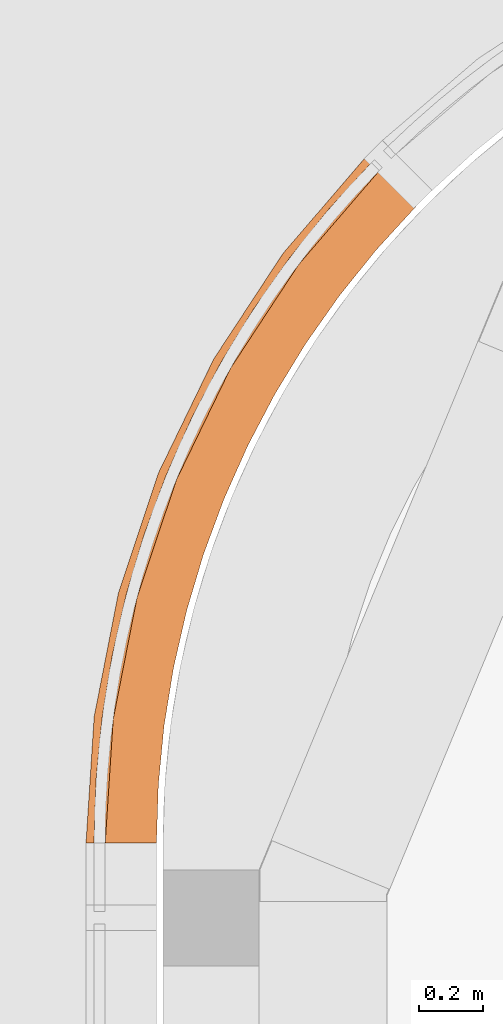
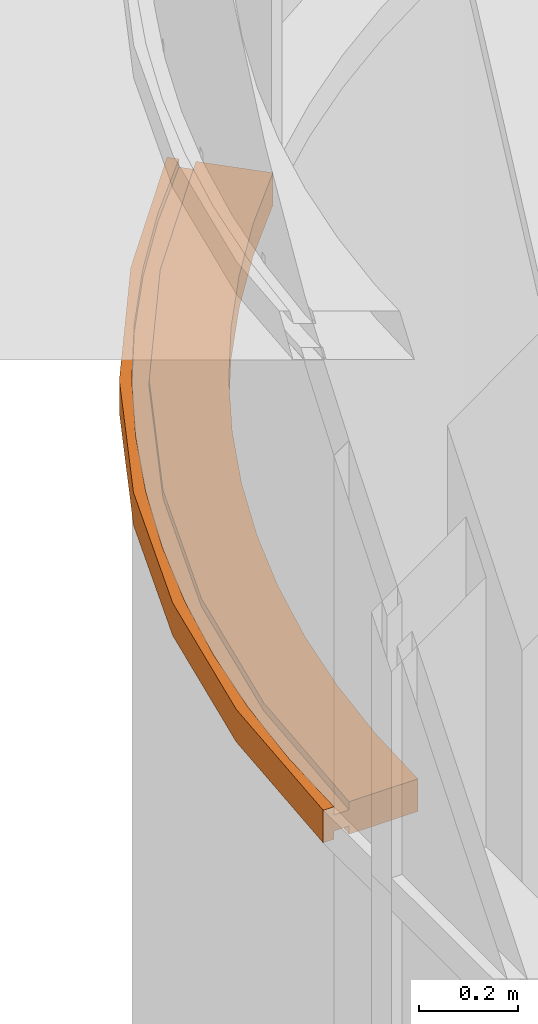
# One storey, part 292 of 302: 1 proxy.
"""IFC2X3 building model written with IfcOpenShell, lengths in metres."""

from ifc_helpers import new_model, entity, si_unit, converted_unit, derived_unit, direction, frame, origin, place, context, subcontext, project, spatial, faceted_brep, source, transform, mapped, material, type_object, type_shapes, element, save


model = new_model("IFC2X3")

# Units and contexts
model_context = context("Model", 3, precision=1e-05, world=origin(), true_north=direction((6.12303176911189e-17, 1.0)))
body_context = subcontext(model_context, "Body", "Model", "MODEL_VIEW")
ifc_project = project(units=[si_unit("LENGTHUNIT", "METRE"), si_unit("AREAUNIT", "SQUARE_METRE"), si_unit("VOLUMEUNIT", "CUBIC_METRE"), converted_unit("PLANEANGLEUNIT", "DEGREE", entity("IfcRatioMeasure", 0.0174532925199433), si_unit("PLANEANGLEUNIT", "RADIAN"), dimensions=[0, 0, 0, 0, 0, 0, 0]), si_unit("MASSUNIT", "GRAM", prefix="KILO"), derived_unit("MASSDENSITYUNIT", [(si_unit("MASSUNIT", "GRAM", prefix="KILO"), 1), (si_unit("LENGTHUNIT", "METRE"), -3)]), derived_unit("MOMENTOFINERTIAUNIT", [(si_unit("LENGTHUNIT", "METRE"), 4)]), si_unit("TIMEUNIT", "SECOND"), si_unit("FREQUENCYUNIT", "HERTZ"), si_unit("THERMODYNAMICTEMPERATUREUNIT", "DEGREE_CELSIUS"), derived_unit("THERMALTRANSMITTANCEUNIT", [(si_unit("MASSUNIT", "GRAM", prefix="KILO"), 1), (si_unit("THERMODYNAMICTEMPERATUREUNIT", "KELVIN"), -1), (si_unit("TIMEUNIT", "SECOND"), -3)]), derived_unit("VOLUMETRICFLOWRATEUNIT", [(si_unit("LENGTHUNIT", "METRE"), 3), (si_unit("TIMEUNIT", "SECOND"), -1)]), si_unit("ELECTRICCURRENTUNIT", "AMPERE"), si_unit("ELECTRICVOLTAGEUNIT", "VOLT"), si_unit("POWERUNIT", "WATT"), si_unit("FORCEUNIT", "NEWTON", prefix="KILO"), si_unit("ILLUMINANCEUNIT", "LUX"), si_unit("LUMINOUSFLUXUNIT", "LUMEN"), si_unit("LUMINOUSINTENSITYUNIT", "CANDELA"), derived_unit("USERDEFINED", [(si_unit("MASSUNIT", "GRAM", prefix="KILO"), -1), (si_unit("LENGTHUNIT", "METRE"), -2), (si_unit("TIMEUNIT", "SECOND"), 3), (si_unit("LUMINOUSFLUXUNIT", "LUMEN"), 1)]), derived_unit("LINEARVELOCITYUNIT", [(si_unit("LENGTHUNIT", "METRE"), 1), (si_unit("TIMEUNIT", "SECOND"), -1)]), si_unit("PRESSUREUNIT", "PASCAL"), derived_unit("USERDEFINED", [(si_unit("LENGTHUNIT", "METRE"), -2), (si_unit("MASSUNIT", "GRAM", prefix="KILO"), 1), (si_unit("TIMEUNIT", "SECOND"), -2)]), derived_unit("LINEARFORCEUNIT", [(si_unit("MASSUNIT", "GRAM", prefix="KILO"), 1), (si_unit("LENGTHUNIT", "METRE"), 1), (si_unit("TIMEUNIT", "SECOND"), -2), (si_unit("LENGTHUNIT", "METRE"), -1)]), derived_unit("PLANARFORCEUNIT", [(si_unit("MASSUNIT", "GRAM", prefix="KILO"), 1), (si_unit("LENGTHUNIT", "METRE"), 1), (si_unit("TIMEUNIT", "SECOND"), -2), (si_unit("LENGTHUNIT", "METRE"), -2)])], contexts=[model_context])

# Site, building, storey
site_placement = place(None, origin())
site = spatial("IfcSite", under=ifc_project, at=site_placement, Name="Default", CompositionType="ELEMENT")
building_placement = place(site_placement, origin())
building = spatial("IfcBuilding", under=site, at=building_placement, CompositionType="ELEMENT")
storey_placement = place(building_placement, frame((0.0, 0.0, -1.3)))
storey = spatial("IfcBuildingStorey", under=building, at=storey_placement, Name="00_EG", CompositionType="ELEMENT", Elevation=-1.3)

# Proxy
ifc_material = material(Name="Prepainted_Steel-ArcelorMittal_Construction_HAIRULTRA-35-CORAL-4309-[RAL_3000]")
building_element_proxy_type = type_object("IfcBuildingElementProxyType", Name="Fassadenrahmen Typ2:Fassadenrahmen Typ1", PredefinedType="NOTDEFINED", material=ifc_material)
shared_shape = source(origin(), body_context, "Body", "Brep", [
    faceted_brep([(0.892326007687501, 2.12421060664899, 0.0800000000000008), (0.892326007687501, 2.12421060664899, 0.060000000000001), (0.917342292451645, 2.09973234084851, 0.0600000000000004), (0.917342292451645, 2.09973234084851, 0.0800000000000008), (1.03170245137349, 1.98783169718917, 0.0800000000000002), (1.03170245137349, 1.98783169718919, 0.0), (0.917342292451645, 2.09973234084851, 0.0), (0.917342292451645, 2.09973234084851, 0.0200000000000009), (0.892326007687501, 2.12421060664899, 0.0200000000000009), (0.892326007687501, 2.12421060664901, 0.0), (0.874457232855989, 2.14169508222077, 0.0), (0.874457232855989, 2.14169508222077, 0.0800000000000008), (0.00159527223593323, 0.0015952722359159, 0.0800000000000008), (0.00159527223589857, 0.0015952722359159, 0.0), (0.0265952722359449, 0.0015952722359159, 0.0), (0.0265952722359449, 0.0015952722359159, 0.0200000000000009), (0.0615952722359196, 0.0015952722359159, 0.0200000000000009), (0.0615952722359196, 0.0015952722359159, 0.0), (0.221595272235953, 0.0015952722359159, 0.0), (0.221595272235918, 0.0015952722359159, 0.0800000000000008), (0.0615952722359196, 0.0015952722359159, 0.0800000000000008), (0.0615952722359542, 0.0015952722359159, 0.060000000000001), (0.0265952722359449, 0.0015952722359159, 0.0600000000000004), (0.0265952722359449, 0.0015952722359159, 0.0800000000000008), (0.16102349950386, 0.767547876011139, 0.0), (0.191707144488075, 0.859302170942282, 0.0), (0.222390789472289, 0.951056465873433, 0.0), (0.253074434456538, 1.04281076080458, 0.0), (0.283758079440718, 1.13456505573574, 0.0), (0.325997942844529, 1.22160602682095, 0.0), (0.36823780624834, 1.30864699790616, 0.0), (0.410477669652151, 1.39568796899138, 0.0), (0.452717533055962, 1.4827289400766, 0.0), (0.505810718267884, 1.56360817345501, 0.0), (0.558903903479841, 1.64448740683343, 0.0), (0.611997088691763, 1.72536664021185, 0.0), (0.665090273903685, 1.80624587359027, 0.0), (0.72815327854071, 1.87961749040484, 0.0), (0.7912162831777, 1.9529891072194, 0.0), (0.839483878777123, 2.00914677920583, 0.0), (0.907818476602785, 1.85276936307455, 0.0), (0.792903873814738, 1.70999784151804, 0.0), (0.687437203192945, 1.56011170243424, 0.0), (0.591857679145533, 1.40373514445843, 0.0), (0.506563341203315, 1.24151939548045, 0.0), (0.431909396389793, 1.07414000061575, 0.0), (0.368206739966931, 0.902294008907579, 0.0), (0.315720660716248, 0.726697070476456, 0.0), (0.274669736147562, 0.548080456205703, 0.0), (0.245224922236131, 0.367188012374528, 0.0), (0.227508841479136, 0.184773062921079, 0.0), (0.0692995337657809, 0.120793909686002, 0.0), (0.0740757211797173, 0.194690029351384, 0.0), (0.0803159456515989, 0.291237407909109, 0.0), (0.0865561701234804, 0.387784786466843, 0.0), (0.105173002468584, 0.482725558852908, 0.0), (0.123789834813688, 0.577666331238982, 0.0), (0.142406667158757, 0.672607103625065, 0.0), (0.103012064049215, 0.78286692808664, 0.0), (0.228201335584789, 1.15722445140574, 0.0), (0.400539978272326, 1.51235161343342, 0.0), (0.617160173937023, 1.84233888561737, 0.0), (0.826130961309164, 2.05204261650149, 0.0), (0.759935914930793, 1.97987462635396, 0.0), (0.698533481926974, 1.90358737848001, 0.0), (0.637131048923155, 1.82730013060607, 0.0), (0.580776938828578, 1.74721132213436, 0.0), (0.524422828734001, 1.66712251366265, 0.0), (0.473351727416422, 1.58356567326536, 0.0), (0.422280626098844, 1.50000883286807, 0.0), (0.376705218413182, 1.41333193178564, 0.0), (0.331129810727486, 1.32665503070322, 0.0), (0.291239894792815, 1.23721903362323, 0.0), (0.25134997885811, 1.14778303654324, 0.0), (0.217311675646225, 1.05596039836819, 0.0), (0.183273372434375, 0.964137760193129, 0.0), (0.155228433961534, 0.870310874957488, 0.0), (0.127183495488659, 0.776483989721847, 0.0), (0.105248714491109, 0.681043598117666, 0.0), (0.0833139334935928, 0.585603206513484, 0.0), (0.0675806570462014, 0.488946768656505, 0.0), (0.0518473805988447, 0.392290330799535, 0.0), (0.0423811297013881, 0.294820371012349, 0.0), (0.0329148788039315, 0.197350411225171, 0.0), (0.0304738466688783, 0.121737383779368, 0.0), (0.0270553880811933, 0.395508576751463, 0.0), (0.452717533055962, 1.48272894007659, 0.0200000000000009), (0.505810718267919, 1.56360817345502, 0.0200000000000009), (0.558903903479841, 1.64448740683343, 0.0200000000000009), (0.611997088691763, 1.72536664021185, 0.0200000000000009), (0.665090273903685, 1.80624587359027, 0.0200000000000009), (0.665090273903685, 1.80624587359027, 0.0800000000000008), (0.665090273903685, 1.80624587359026, 0.060000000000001), (0.611997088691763, 1.72536664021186, 0.0600000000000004), (0.558903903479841, 1.64448740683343, 0.0600000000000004), (0.505810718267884, 1.56360817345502, 0.0600000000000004), (0.452717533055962, 1.48272894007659, 0.060000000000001), (0.452717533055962, 1.48272894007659, 0.0800000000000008), (0.505810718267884, 1.56360817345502, 0.0800000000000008), (0.558903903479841, 1.64448740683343, 0.0800000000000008), (0.611997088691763, 1.72536664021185, 0.0800000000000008), (0.728153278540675, 1.87961749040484, 0.0200000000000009), (0.791216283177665, 1.95298910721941, 0.0200000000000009), (0.85427928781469, 2.02636072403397, 0.0200000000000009), (0.713357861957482, 1.86240353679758, 0.0600000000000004), (0.728153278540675, 1.87961749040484, 0.0800000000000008), (0.791216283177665, 1.95298910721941, 0.0800000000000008), (0.839483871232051, 2.0091467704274, 0.0800000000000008), (0.839483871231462, 2.00914677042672, 0.0600000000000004), (0.761625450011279, 1.91856120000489, 0.0600000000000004), (0.410477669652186, 1.39568796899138, 0.0200000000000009), (0.283758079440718, 1.13456505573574, 0.0200000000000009), (0.325997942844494, 1.22160602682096, 0.0200000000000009), (0.36823780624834, 1.30864699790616, 0.0200000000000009), (0.410477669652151, 1.39568796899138, 0.0600000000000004), (0.368237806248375, 1.30864699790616, 0.0600000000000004), (0.325997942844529, 1.22160602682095, 0.0600000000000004), (0.283758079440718, 1.13456505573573, 0.060000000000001), (0.283758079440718, 1.13456505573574, 0.0800000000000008), (0.325997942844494, 1.22160602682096, 0.0800000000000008), (0.36823780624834, 1.30864699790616, 0.0800000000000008), (0.410477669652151, 1.39568796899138, 0.0800000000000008), (0.0865561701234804, 0.387784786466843, 0.0200000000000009), (0.105173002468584, 0.482725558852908, 0.0200000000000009), (0.123789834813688, 0.577666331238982, 0.0200000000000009), (0.142406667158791, 0.672607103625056, 0.0200000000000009), (0.16102349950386, 0.76754787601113, 0.0200000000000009), (0.123789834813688, 0.577666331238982, 0.0600000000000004), (0.105173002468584, 0.482725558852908, 0.0600000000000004), (0.0865561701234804, 0.387784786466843, 0.060000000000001), (0.0865561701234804, 0.387784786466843, 0.0800000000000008), (0.105173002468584, 0.482725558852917, 0.0800000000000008), (0.123789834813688, 0.577666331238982, 0.0800000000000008), (0.142406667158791, 0.672607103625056, 0.0800000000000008), (0.161023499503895, 0.76754787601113, 0.0800000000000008), (0.161023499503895, 0.76754787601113, 0.060000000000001), (0.142406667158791, 0.672607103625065, 0.0600000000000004), (0.0740757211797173, 0.194690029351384, 0.0200000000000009), (0.0803159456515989, 0.291237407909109, 0.0200000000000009), (0.0678354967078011, 0.0981426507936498, 0.0200000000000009), (0.069299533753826, 0.120793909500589, 0.0800000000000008), (0.0740757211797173, 0.194690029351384, 0.0800000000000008), (0.0803159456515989, 0.291237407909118, 0.0800000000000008), (0.0803159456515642, 0.291237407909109, 0.0600000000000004), (0.0740757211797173, 0.194690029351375, 0.0600000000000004), (0.0678354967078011, 0.0981426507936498, 0.0600000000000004), (0.191707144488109, 0.859302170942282, 0.0200000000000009), (0.222390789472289, 0.951056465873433, 0.0200000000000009), (0.253074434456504, 1.04281076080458, 0.0200000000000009), (0.253074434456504, 1.04281076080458, 0.0800000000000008), (0.253074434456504, 1.04281076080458, 0.0600000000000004), (0.222390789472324, 0.951056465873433, 0.0600000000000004), (0.191707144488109, 0.859302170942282, 0.0600000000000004), (0.191707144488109, 0.859302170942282, 0.0800000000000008), (0.222390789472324, 0.951056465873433, 0.0800000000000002), (0.0297550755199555, 0.0994728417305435, 0.0200000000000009), (0.0329148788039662, 0.197350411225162, 0.0200000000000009), (0.0423811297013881, 0.294820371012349, 0.0200000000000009), (0.0518473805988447, 0.392290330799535, 0.0200000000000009), (0.0675806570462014, 0.488946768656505, 0.0200000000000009), (0.0833139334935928, 0.585603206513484, 0.0200000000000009), (0.105248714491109, 0.681043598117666, 0.0200000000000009), (0.127183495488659, 0.776483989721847, 0.0200000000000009), (0.155228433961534, 0.870310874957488, 0.0200000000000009), (0.183273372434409, 0.964137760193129, 0.0200000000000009), (0.217311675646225, 1.05596039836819, 0.0200000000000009), (0.25134997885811, 1.14778303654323, 0.0200000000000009), (0.291239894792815, 1.23721903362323, 0.0200000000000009), (0.331129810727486, 1.32665503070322, 0.0200000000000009), (0.376705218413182, 1.41333193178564, 0.0200000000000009), (0.422280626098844, 1.50000883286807, 0.0200000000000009), (0.473351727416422, 1.58356567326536, 0.0200000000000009), (0.524422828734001, 1.66712251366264, 0.0200000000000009), (0.580776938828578, 1.74721132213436, 0.0200000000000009), (0.637131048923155, 1.82730013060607, 0.0200000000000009), (0.698533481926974, 1.90358737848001, 0.0200000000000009), (0.759935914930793, 1.97987462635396, 0.0200000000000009), (0.826130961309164, 2.05204261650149, 0.0200000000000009), (0.524422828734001, 1.66712251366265, 0.0800000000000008), (0.473351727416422, 1.58356567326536, 0.0800000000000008), (0.422280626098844, 1.50000883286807, 0.0800000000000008), (0.422280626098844, 1.50000883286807, 0.0600000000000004), (0.473351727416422, 1.58356567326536, 0.0600000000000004), (0.524422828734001, 1.66712251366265, 0.0600000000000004), (0.376705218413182, 1.41333193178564, 0.0800000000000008), (0.331129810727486, 1.32665503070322, 0.0800000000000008), (0.331129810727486, 1.32665503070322, 0.0600000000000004), (0.376705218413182, 1.41333193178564, 0.0600000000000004), (0.698533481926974, 1.90358737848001, 0.0800000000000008), (0.637131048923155, 1.82730013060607, 0.0800000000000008), (0.637131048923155, 1.82730013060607, 0.0600000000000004), (0.698533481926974, 1.90358737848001, 0.0600000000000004), (0.759935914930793, 1.97987462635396, 0.0600000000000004), (0.759935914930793, 1.97987462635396, 0.0800000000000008), (0.826130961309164, 2.05204261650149, 0.0800000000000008), (0.826130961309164, 2.05204261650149, 0.0600000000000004), (0.580776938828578, 1.74721132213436, 0.0800000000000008), (0.580776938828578, 1.74721132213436, 0.0600000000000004), (0.291239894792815, 1.23721903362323, 0.0800000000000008), (0.25134997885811, 1.14778303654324, 0.0800000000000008), (0.25134997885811, 1.14778303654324, 0.0600000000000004), (0.291239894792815, 1.23721903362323, 0.0600000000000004), (0.155228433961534, 0.870310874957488, 0.0800000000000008), (0.127183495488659, 0.776483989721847, 0.0800000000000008), (0.127183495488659, 0.776483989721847, 0.0600000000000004), (0.155228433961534, 0.870310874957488, 0.0600000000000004), (0.183273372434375, 0.964137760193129, 0.0600000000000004), (0.183273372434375, 0.964137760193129, 0.0800000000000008), (0.0423811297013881, 0.294820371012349, 0.0800000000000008), (0.0329148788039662, 0.197350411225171, 0.0800000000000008), (0.0329148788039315, 0.197350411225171, 0.0600000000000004), (0.0423811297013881, 0.294820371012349, 0.0600000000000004), (0.0518473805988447, 0.392290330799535, 0.0600000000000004), (0.0518473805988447, 0.392290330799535, 0.0800000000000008), (0.217311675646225, 1.05596039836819, 0.0600000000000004), (0.217311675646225, 1.05596039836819, 0.0800000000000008), (0.105248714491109, 0.681043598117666, 0.0800000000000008), (0.0833139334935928, 0.585603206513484, 0.0800000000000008), (0.0833139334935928, 0.585603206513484, 0.0600000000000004), (0.105248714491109, 0.681043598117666, 0.0600000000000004), (0.0297550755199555, 0.0994728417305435, 0.0600000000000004), (0.0304738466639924, 0.121737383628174, 0.0800000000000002), (0.0675806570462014, 0.488946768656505, 0.0800000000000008), (0.0675806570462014, 0.488946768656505, 0.0600000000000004), (0.40053997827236, 1.5123516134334, 0.0800000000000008), (0.617160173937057, 1.84233888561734, 0.0800000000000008), (0.228201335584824, 1.15722445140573, 0.0800000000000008), (0.0270553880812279, 0.395508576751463, 0.0800000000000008), (0.103012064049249, 0.782866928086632, 0.0800000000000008), (0.274669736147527, 0.548080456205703, 0.0800000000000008), (0.315720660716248, 0.726697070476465, 0.0800000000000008), (0.368206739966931, 0.902294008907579, 0.0800000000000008), (0.431909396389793, 1.07414000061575, 0.0800000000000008), (0.506563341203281, 1.24151939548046, 0.0800000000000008), (0.591857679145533, 1.40373514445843, 0.0800000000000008), (0.687437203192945, 1.56011170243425, 0.0800000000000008), (0.792903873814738, 1.70999784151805, 0.0800000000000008), (0.90781847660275, 1.85276936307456, 0.0800000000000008), (0.227508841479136, 0.184773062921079, 0.0800000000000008), (0.245224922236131, 0.367188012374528, 0.0800000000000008)], [[[0, 1, 2, 3, 4, 5, 6, 7, 8, 9, 10, 11]], [[12, 13, 14, 15, 16, 17, 18, 19, 20, 21, 22, 23]], [[24, 25, 26, 27, 28, 29, 30, 31, 32, 33, 34, 35, 36, 37, 38, 39, 6, 5, 40, 41, 42, 43, 44, 45, 46, 47, 48, 49, 50, 18, 17, 51, 52, 53, 54, 55, 56, 57]], [[58, 59, 60, 61, 10, 9, 62, 63, 64, 65, 66, 67, 68, 69, 70, 71, 72, 73, 74, 75, 76, 77, 78, 79, 80, 81, 82, 83, 84, 14, 13, 85]], [[32, 86, 87, 88, 89, 90, 36, 35, 34, 33]], [[91, 92, 93, 94, 95, 96, 97, 98, 99, 100]], [[7, 6, 39, 38, 37, 36, 90, 101, 102, 103]], [[104, 92, 91, 105, 106, 107, 3, 2, 108, 109]], [[110, 86, 32, 31, 30, 29, 28, 111, 112, 113]], [[97, 96, 114, 115, 116, 117, 118, 119, 120, 121]], [[56, 55, 54, 122, 123, 124, 125, 126, 24, 57]], [[127, 128, 129, 130, 131, 132, 133, 134, 135, 136]], [[137, 138, 122, 54, 53, 52, 51, 17, 16, 139]], [[20, 140, 141, 142, 130, 129, 143, 144, 145, 21]], [[25, 24, 126, 146, 147, 148, 111, 28, 27, 26]], [[149, 118, 117, 150, 151, 152, 135, 134, 153, 154]], [[126, 125, 124, 123, 122, 138, 137, 139, 16, 15, 155, 156, 157, 158, 159, 160, 161, 162, 163, 164, 165, 166, 167, 168, 169, 170, 171, 172, 173, 174, 175, 176, 177, 8, 7, 103, 102, 101, 90, 89, 88, 87, 86, 110, 113, 112, 111, 148, 147, 146]], [[68, 67, 172, 171, 170, 69]], [[178, 179, 180, 181, 182, 183]], [[70, 69, 170, 169, 168, 71]], [[180, 184, 185, 186, 187, 181]], [[174, 65, 64, 63, 176, 175]], [[188, 189, 190, 191, 192, 193]], [[63, 62, 9, 8, 177, 176]], [[1, 0, 194, 193, 192, 195]], [[66, 65, 174, 173, 172, 67]], [[189, 196, 178, 183, 197, 190]], [[167, 166, 73, 72, 71, 168]], [[185, 198, 199, 200, 201, 186]], [[76, 75, 164, 163, 162, 77]], [[202, 203, 204, 205, 206, 207]], [[156, 83, 82, 81, 158, 157]], [[208, 209, 210, 211, 212, 213]], [[164, 75, 74, 73, 166, 165]], [[214, 200, 199, 215, 207, 206]], [[162, 161, 160, 79, 78, 77]], [[216, 217, 218, 219, 204, 203]], [[155, 15, 14, 84, 83, 156]], [[220, 210, 209, 221, 23, 22]], [[160, 159, 158, 81, 80, 79]], [[217, 222, 213, 212, 223, 218]], [[61, 60, 224, 225]], [[10, 61, 225, 11]], [[60, 59, 226, 224]], [[227, 228, 58, 85]], [[12, 227, 85, 13]], [[59, 58, 228, 226]], [[228, 227, 12, 23, 221, 209, 208, 213, 222, 217, 216, 203, 202, 207, 215, 199, 198, 185, 184, 180, 179, 178, 196, 189, 188, 193, 194, 0, 11, 225, 224, 226]], [[229, 230, 231, 232, 233, 234, 235, 236, 237, 4, 3, 107, 106, 105, 91, 100, 99, 98, 97, 121, 120, 119, 118, 149, 154, 153, 134, 133, 132, 131, 130, 142, 141, 140, 20, 19, 238, 239]], [[135, 152, 151, 150, 117, 116, 115, 114, 96, 95, 94, 93, 92, 104, 109, 108, 2, 1, 195, 192, 191, 190, 197, 183, 182, 181, 187, 186, 201, 200, 214, 206, 205, 204, 219, 218, 223, 212, 211, 210, 220, 22, 21, 145, 144, 143, 129, 128, 127, 136]], [[236, 41, 40, 237]], [[4, 237, 40, 5]], [[43, 42, 235, 234]], [[44, 43, 234, 233]], [[236, 235, 42, 41]], [[233, 232, 45, 44]], [[47, 46, 231, 230]], [[47, 230, 229, 48]], [[50, 49, 239, 238]], [[239, 49, 48, 229]], [[18, 50, 238, 19]], [[45, 232, 231, 46]]]),
])
type_shapes(building_element_proxy_type, [shared_shape])
proxy_placement = place(storey_placement, frame((-266.901706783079, 42.736493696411, 4.02999999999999)))
element("IfcBuildingElementProxy", 1, at=proxy_placement, inside=storey, type_object=building_element_proxy_type, material=ifc_material, Name="Fassadenrahmen Typ2:Fassadenrahmen Typ1", ObjectType="Fassadenrahmen Typ2:Fassadenrahmen Typ1", context=body_context, shape_type="MappedRepresentation", body=[
    mapped(shared_shape, transform((0.0, 0.0, 0.0), scale=1.0)),
])

save(model, "model.ifc")
